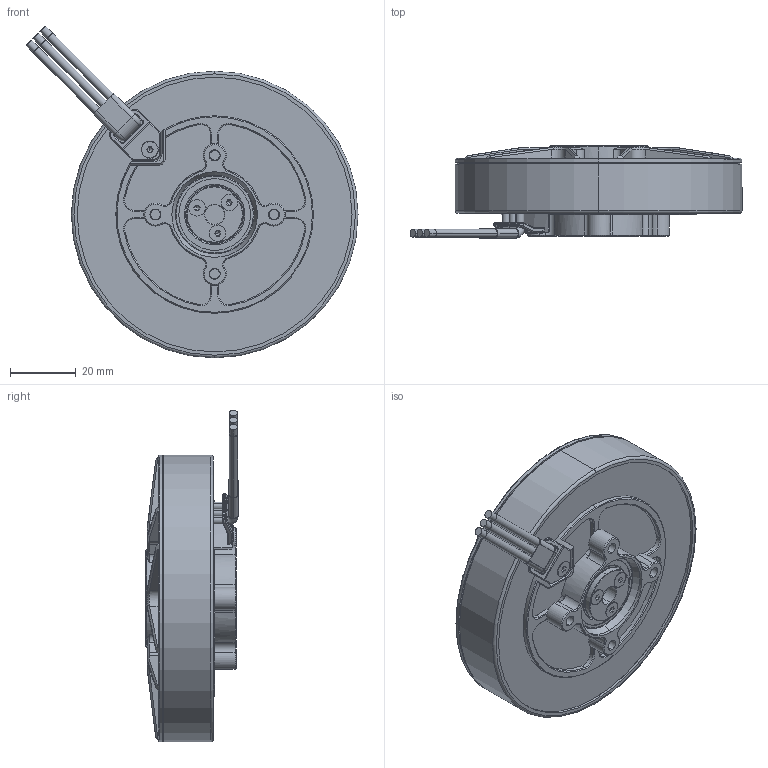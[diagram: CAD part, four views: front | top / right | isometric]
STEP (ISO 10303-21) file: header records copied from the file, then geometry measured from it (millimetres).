
FILE_DESCRIPTION (( 'STEP AP203' ), '1' );
FILE_NAME ('8110-UL-勤俋.STEP', '2024-01-17T02:38:30', ( '' ), ( '' ), 'SwSTEP 2.0', 'SolidWorks 2021', '' );
FILE_SCHEMA (( 'CONFIG_CONTROL_DESIGN' ));
Products named in the file (1): 8110-UL-勤俋
Bounding box: 100.87 x 28.05 x 100.8 mm (x, y, z)
Volume: 97185.5 mm3; surface area: 30070.8 mm2
Topology: 9 solids, 23 shells, 1542 faces, 3947 edges, 2479 vertices
Faces by surface type: cylinder 551, plane 463, bspline 265, cone 245, torus 18
Entity records: 119579 total; most frequent: CARTESIAN_POINT 84975, ORIENTED_EDGE 7850, DIRECTION 6621, EDGE_CURVE 3925, AXIS2_PLACEMENT_3D 2508, VERTEX_POINT 2479, EDGE_LOOP 1626, VECTOR 1605
